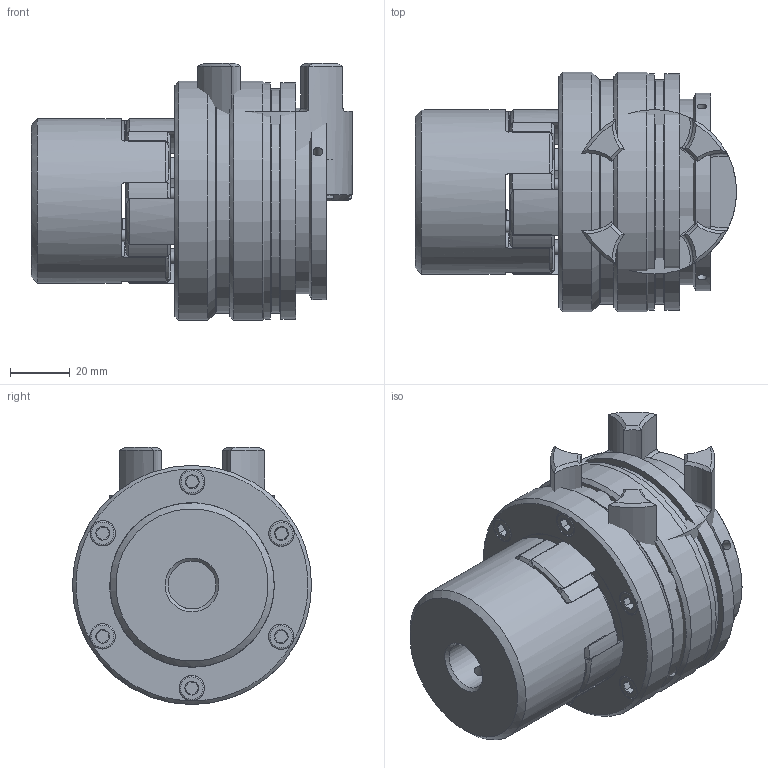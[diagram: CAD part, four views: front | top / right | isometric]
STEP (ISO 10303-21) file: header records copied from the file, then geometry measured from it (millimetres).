
FILE_DESCRIPTION( ( 'Unknown' ), '1' );
FILE_NAME( 'K:/Daten/homepage/cad - homepage/KBK-E-PP/KBK EPP-24.stp', 'Unknown', ( 'Unknown' ), ( 'Unknown' ), 'XStep 1.0', 'Unknown', ' ' );
FILE_SCHEMA( ( 'automotive_design' ) );
Length unit declared in the file: millimetre
Products named in the file (14): Assem1; Assem2; ball_bearing_-_6007_0_01; ball_bearing_-_6007_0_02; ball_bearing_-_6007_0_03; KBK L-P-60 Grundkörper; Stellring 60; Druckring 60; Flansch 60; a_35; Zahnkranz_24_Standard; KBE 1 - 24_Nabe; ISO EN DIN 4762_M5x20; Elastomerflansch 24
Bounding box: 107.4 x 80 x 86 mm (x, y, z)
Volume: 579925.4 mm3; surface area: 221182.8 mm2
Topology: 32 solids, 32 shells, 860 faces, 1877 edges, 1137 vertices
Faces by surface type: cone 287, cylinder 274, plane 240, torus 59
Full cylindrical faces by diameter (mm): 2.5 x4, 3.242 x6, 4 x22, 4.134 x12, 4.2 x2, 5 x7, 5.2 x12, 8.5 x19, 16 x2, 27 x4, 30 x2, 33 x2, 35 x7, 43.7 x6, 44 x2, 46 x4, 46.5 x2, 53.6 x6, 55 x4, 61.3 x2, 62 x7, 66 x2, 75 x4, 79 x2, 80 x2
Entity records: 10715 total; most frequent: CARTESIAN_POINT 2522, DIRECTION 1744, ORIENTED_EDGE 1384, AXIS2_PLACEMENT_3D 814, EDGE_CURVE 692, EDGE_LOOP 532, VERTEX_POINT 470, FACE_OUTER_BOUND 444
